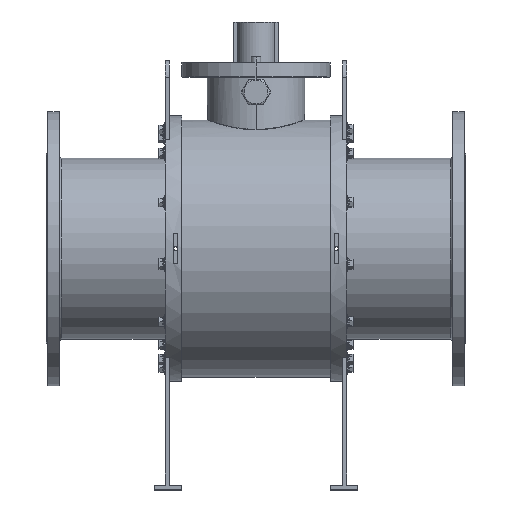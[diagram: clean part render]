
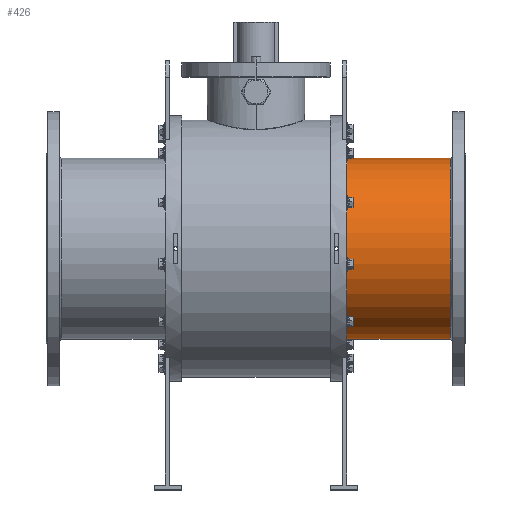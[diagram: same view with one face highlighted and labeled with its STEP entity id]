
A CAD part, top view. The second image highlights one B-rep face of the part: STEP entity #426.
In plain terms, the highlighted cylindrical face has radius 213.7 mm (diameter 427.4 mm), a partial arc.
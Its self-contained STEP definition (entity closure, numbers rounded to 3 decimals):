
#158 = EDGE_CURVE ( 'NONE', #5142, #12240, #5706, .T. ) ;
#174 = CARTESIAN_POINT ( 'NONE',  ( -495.5, -213.7, 0. ) ) ;
#246 = EDGE_CURVE ( 'NONE', #7362, #12240, #10909, .T. ) ;
#352 = DIRECTION ( 'NONE',  ( 0., 1., 0. ) ) ;
#426 = ADVANCED_FACE ( 'NONE', ( #4472 ), #5536, .T. ) ;
#571 = CARTESIAN_POINT ( 'NONE',  ( 215., 213.7, 0. ) ) ;
#697 = EDGE_CURVE ( 'NONE', #7362, #7706, #910, .T. ) ;
#910 = CIRCLE ( 'NONE', #10225, 213.7 ) ;
#2442 = CARTESIAN_POINT ( 'NONE',  ( 215., 0., 0. ) ) ;
#2599 = ORIENTED_EDGE ( 'NONE', *, *, #246, .F. ) ;
#3663 = AXIS2_PLACEMENT_3D ( 'NONE', #4267, #11943, #8821 ) ;
#3790 = EDGE_LOOP ( 'NONE', ( #13622, #6887, #6483, #2599 ) ) ;
#4267 = CARTESIAN_POINT ( 'NONE',  ( -495.5, 0., 0. ) ) ;
#4277 = CARTESIAN_POINT ( 'NONE',  ( 215., -213.7, 0. ) ) ;
#4472 = FACE_OUTER_BOUND ( 'NONE', #3790, .T. ) ;
#5142 = VERTEX_POINT ( 'NONE', #571 ) ;
#5239 = VECTOR ( 'NONE', #8922, 1000. ) ;
#5536 = CYLINDRICAL_SURFACE ( 'NONE', #3663, 213.7 ) ;
#5706 = CIRCLE ( 'NONE', #13663, 213.7 ) ;
#6096 = EDGE_CURVE ( 'NONE', #7706, #5142, #13327, .T. ) ;
#6483 = ORIENTED_EDGE ( 'NONE', *, *, #158, .T. ) ;
#6887 = ORIENTED_EDGE ( 'NONE', *, *, #6096, .T. ) ;
#7362 = VERTEX_POINT ( 'NONE', #8549 ) ;
#7706 = VERTEX_POINT ( 'NONE', #9178 ) ;
#8549 = CARTESIAN_POINT ( 'NONE',  ( 458.5, -213.7, 0. ) ) ;
#8778 = DIRECTION ( 'NONE',  ( 0., 0., -1. ) ) ;
#8821 = DIRECTION ( 'NONE',  ( 0., -1., 0. ) ) ;
#8922 = DIRECTION ( 'NONE',  ( -1., 0., 0. ) ) ;
#8957 = CARTESIAN_POINT ( 'NONE',  ( 458.5, 0., 0. ) ) ;
#9178 = CARTESIAN_POINT ( 'NONE',  ( 458.5, 213.7, 0. ) ) ;
#9269 = DIRECTION ( 'NONE',  ( -1., 0., 0. ) ) ;
#9901 = DIRECTION ( 'NONE',  ( 1., 0., 0. ) ) ;
#10225 = AXIS2_PLACEMENT_3D ( 'NONE', #8957, #11152, #352 ) ;
#10337 = CARTESIAN_POINT ( 'NONE',  ( -495.5, 213.7, 0. ) ) ;
#10909 = LINE ( 'NONE', #174, #5239 ) ;
#11152 = DIRECTION ( 'NONE',  ( -1., 0., 0. ) ) ;
#11943 = DIRECTION ( 'NONE',  ( -1., 0., 0. ) ) ;
#12240 = VERTEX_POINT ( 'NONE', #4277 ) ;
#12592 = VECTOR ( 'NONE', #9269, 1000. ) ;
#13327 = LINE ( 'NONE', #10337, #12592 ) ;
#13622 = ORIENTED_EDGE ( 'NONE', *, *, #697, .T. ) ;
#13663 = AXIS2_PLACEMENT_3D ( 'NONE', #2442, #9901, #8778 ) ;
